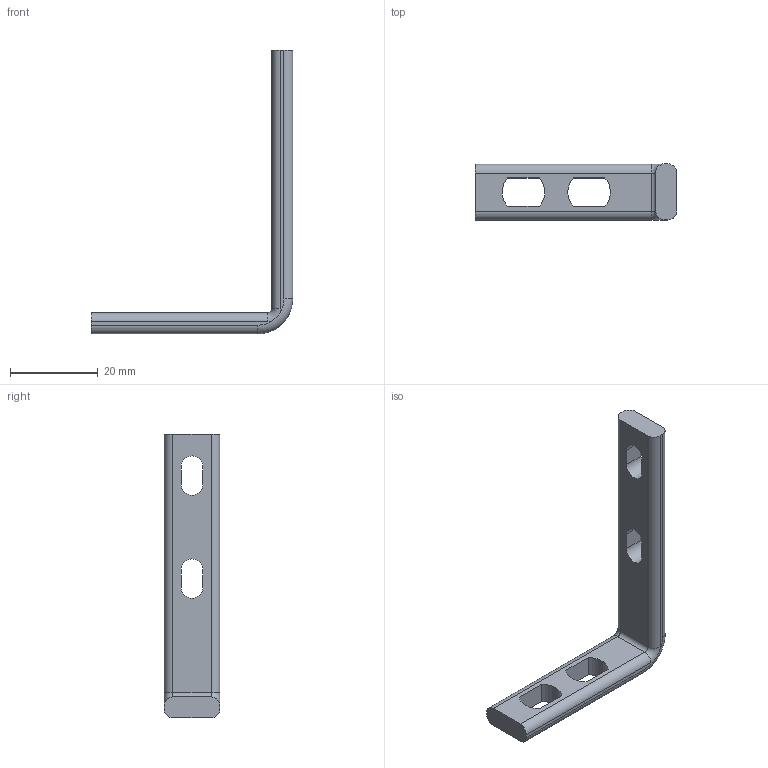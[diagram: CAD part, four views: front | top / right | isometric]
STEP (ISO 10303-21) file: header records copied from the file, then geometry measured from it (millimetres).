
FILE_DESCRIPTION((''),'2;1');
FILE_NAME('F:\AirCom-Produktdokumentation\Winkel\CAD\CAD AirCom\3D\B-MK20-0100-2.stp','2009-11-25T12:22:11',('Frank Schroers'),(''),'Autodesk Inventor 2008','Autodesk Inventor 2008','');
FILE_SCHEMA(('AUTOMOTIVE_DESIGN { 1 0 10303 214 1 1 1 1 }'));
Length unit declared in the file: millimetre
Products named in the file (1): B-MK20-0100-2
Bounding box: 46 x 12.75 x 64.8 mm (x, y, z)
Volume: 5020.7 mm3; surface area: 3514.8 mm2
Topology: 1 solids, 1 shells, 40 faces, 106 edges, 68 vertices
Faces by surface type: cylinder 18, plane 18, torus 4
Entity records: 1306 total; most frequent: CARTESIAN_POINT 233, DIRECTION 230, ORIENTED_EDGE 212, EDGE_CURVE 106, AXIS2_PLACEMENT_3D 85, VERTEX_POINT 68, VECTOR 60, LINE 60
